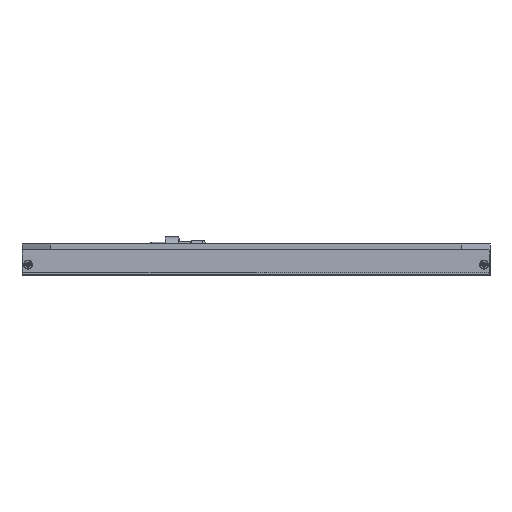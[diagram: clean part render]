
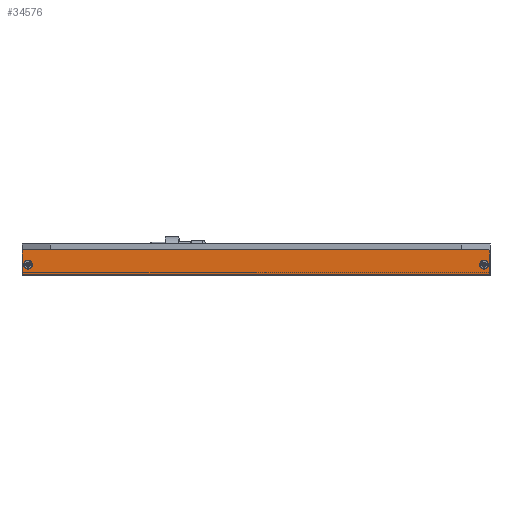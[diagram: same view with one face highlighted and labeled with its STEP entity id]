
A CAD part, front view. The second image highlights one B-rep face of the part: STEP entity #34576.
In plain terms, the highlighted planar face has unit normal (0, -1, 0).
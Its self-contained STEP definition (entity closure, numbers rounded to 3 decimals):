
#5225=DIRECTION('',(-1.,0.,0.));
#5226=VECTOR('',#5225,314.6);
#5227=CARTESIAN_POINT('',(157.3,-157.5,0.));
#5228=LINE('',#5227,#5226);
#11549=DIRECTION('',(0.,0.,-1.));
#11550=VECTOR('',#11549,16.8);
#11551=CARTESIAN_POINT('',(157.3,-157.5,0.));
#11552=LINE('',#11551,#11550);
#11553=CARTESIAN_POINT('',(-153.5,-157.5,-10.));
#11554=DIRECTION('',(0.,1.,0.));
#11555=DIRECTION('',(0.,0.,1.));
#11556=AXIS2_PLACEMENT_3D('',#11553,#11554,#11555);
#11558=CARTESIAN_POINT('',(-153.5,-157.5,-10.));
#11559=DIRECTION('',(0.,1.,0.));
#11560=DIRECTION('',(0.,0.,-1.));
#11561=AXIS2_PLACEMENT_3D('',#11558,#11559,#11560);
#11563=CARTESIAN_POINT('',(153.5,-157.5,-10.));
#11564=DIRECTION('',(0.,1.,0.));
#11565=DIRECTION('',(0.,0.,-1.));
#11566=AXIS2_PLACEMENT_3D('',#11563,#11564,#11565);
#11568=CARTESIAN_POINT('',(153.5,-157.5,-10.));
#11569=DIRECTION('',(0.,1.,0.));
#11570=DIRECTION('',(0.,0.,1.));
#11571=AXIS2_PLACEMENT_3D('',#11568,#11569,#11570);
#11573=DIRECTION('',(1.,0.,0.));
#11574=VECTOR('',#11573,314.6);
#11575=CARTESIAN_POINT('',(-157.3,-157.5,-16.8));
#11576=LINE('',#11575,#11574);
#11577=DIRECTION('',(0.,0.,-1.));
#11578=VECTOR('',#11577,16.8);
#11579=CARTESIAN_POINT('',(-157.3,-157.5,0.));
#11580=LINE('',#11579,#11578);
#14297=CARTESIAN_POINT('',(-157.3,-157.5,-16.8));
#14298=VERTEX_POINT('',#14297);
#14305=CARTESIAN_POINT('',(157.3,-157.5,-16.8));
#14306=VERTEX_POINT('',#14305);
#14307=CARTESIAN_POINT('',(153.5,-157.5,-7.));
#14308=CARTESIAN_POINT('',(153.5,-157.5,-13.));
#14309=VERTEX_POINT('',#14307);
#14310=VERTEX_POINT('',#14308);
#14311=CARTESIAN_POINT('',(-153.5,-157.5,-13.));
#14312=CARTESIAN_POINT('',(-153.5,-157.5,-7.));
#14313=VERTEX_POINT('',#14311);
#14314=VERTEX_POINT('',#14312);
#16974=CARTESIAN_POINT('',(-157.3,-157.5,0.));
#16976=VERTEX_POINT('',#16974);
#16977=CARTESIAN_POINT('',(157.3,-157.5,0.));
#16978=VERTEX_POINT('',#16977);
#34552=CARTESIAN_POINT('',(-157.5,-157.5,-17.));
#34553=DIRECTION('',(0.,-1.,0.));
#34554=DIRECTION('',(0.,0.,1.));
#34555=AXIS2_PLACEMENT_3D('',#34552,#34553,#34554);
#34556=PLANE('',#34555);
#34557=ORIENTED_EDGE('',*,*,#34547,.T.);
#34558=ORIENTED_EDGE('',*,*,#34517,.F.);
#34560=ORIENTED_EDGE('',*,*,#34559,.F.);
#34561=ORIENTED_EDGE('',*,*,#25123,.F.);
#34562=EDGE_LOOP('',(#34557,#34558,#34560,#34561));
#34563=FACE_OUTER_BOUND('',#34562,.F.);
#34565=ORIENTED_EDGE('',*,*,#34564,.F.);
#34567=ORIENTED_EDGE('',*,*,#34566,.F.);
#34568=EDGE_LOOP('',(#34565,#34567));
#34569=FACE_BOUND('',#34568,.F.);
#34571=ORIENTED_EDGE('',*,*,#34570,.F.);
#34573=ORIENTED_EDGE('',*,*,#34572,.F.);
#34574=EDGE_LOOP('',(#34571,#34573));
#34575=FACE_BOUND('',#34574,.F.);
#34576=ADVANCED_FACE('',(#34563,#34569,#34575),#34556,.T.);
#11557=CIRCLE('',#11556,3.);
#11562=CIRCLE('',#11561,3.);
#11567=CIRCLE('',#11566,3.);
#11572=CIRCLE('',#11571,3.);
#25123=EDGE_CURVE('',#16978,#16976,#5228,.T.);
#34517=EDGE_CURVE('',#14298,#14306,#11576,.T.);
#34547=EDGE_CURVE('',#16978,#14306,#11552,.T.);
#34559=EDGE_CURVE('',#16976,#14298,#11580,.T.);
#34564=EDGE_CURVE('',#14310,#14309,#11567,.T.);
#34566=EDGE_CURVE('',#14309,#14310,#11572,.T.);
#34570=EDGE_CURVE('',#14314,#14313,#11557,.T.);
#34572=EDGE_CURVE('',#14313,#14314,#11562,.T.);
